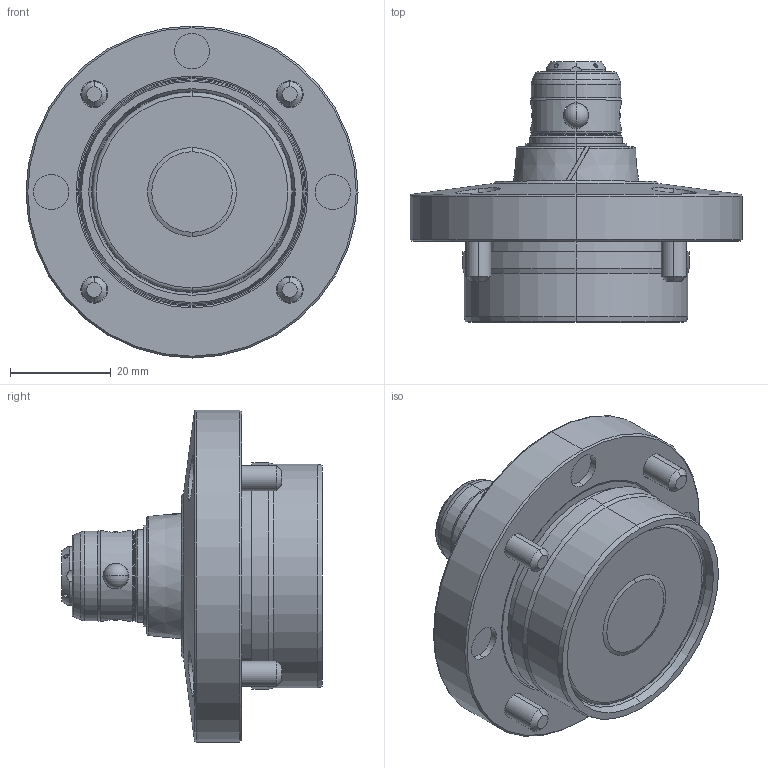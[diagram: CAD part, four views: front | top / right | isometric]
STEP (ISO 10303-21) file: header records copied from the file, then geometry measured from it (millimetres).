
FILE_DESCRIPTION (( 'STEP AP203' ), '1' );
FILE_NAME ('SWT0020-MD.step', '2010-08-04T09:04:12', ( ' ' ), ( ' ' ), 'SwSTEP 2.0', 'SolidWorks 2010', '' );
FILE_SCHEMA (( 'CONFIG_CONTROL_DESIGN' ));
Length unit declared in the file: millimetre
Products named in the file (8): 鋼球_5; 4SW100109; 4SW100176; SWT0020-MD; 4SW100104; 4SW100108; FRS-18S; 6妏寠晅无倌_M5_12
Assembly tree (13 placements, depth 2):
  SWT0020-MD
    4SW100108
    鋼球_5  x4
    6妏寠晅无倌_M5_12  x4
    4SW100109
    FRS-18S
    4SW100104
    4SW100176
Bounding box: 66 x 51.7 x 66 mm (x, y, z)
Volume: 64690.8 mm3; surface area: 23473.9 mm2
Topology: 14 solids, 14 shells, 334 faces, 694 edges, 399 vertices
Faces by surface type: cylinder 114, plane 99, cone 89, torus 24, sphere 8
Entity records: 8033 total; most frequent: CARTESIAN_POINT 1857, DIRECTION 1181, ORIENTED_EDGE 1008, AXIS2_PLACEMENT_3D 510, EDGE_CURVE 504, VERTEX_POINT 306, EDGE_LOOP 280, CIRCLE 259
